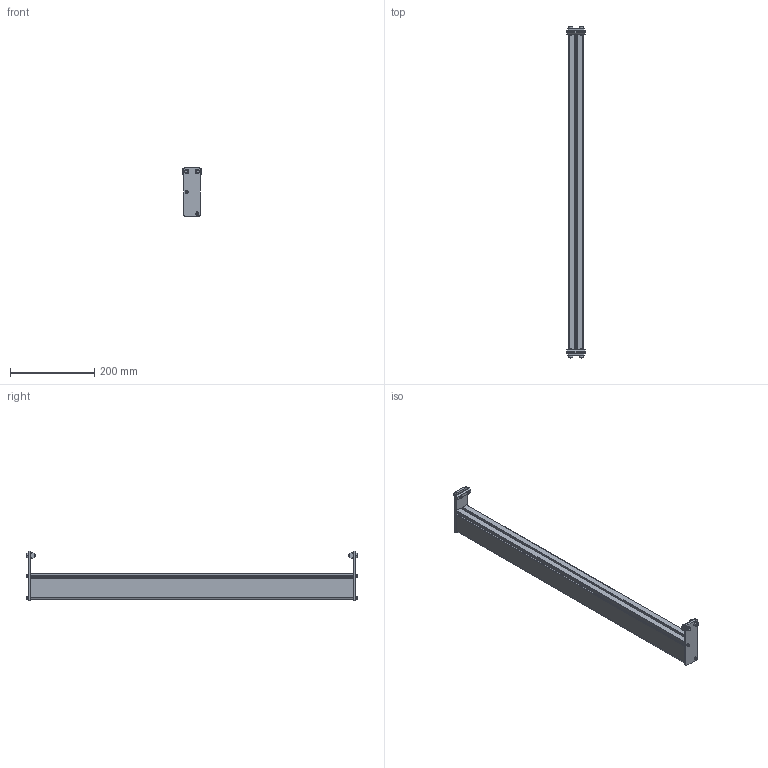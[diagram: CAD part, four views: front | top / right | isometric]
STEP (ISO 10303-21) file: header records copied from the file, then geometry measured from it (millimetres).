
FILE_DESCRIPTION((''),'2;1');
FILE_NAME('350974-30_ASM','2023-03-22T',('jenni.wallner'),(''),'PRO/ENGINEER BY PARAMETRIC TECHNOLOGY CORPORATION, 2012420','PRO/ENGINEER BY PARAMETRIC TECHNOLOGY CORPORATION, 2012420','');
FILE_SCHEMA(('CONFIG_CONTROL_DESIGN'));
Length unit declared in the file: inch
Products named in the file (6): 350979-03023; 350978; 200830M; 920616M; 920416M; 350974-30_ASM
Assembly tree (13 placements, depth 2):
  350974-30_ASM
    350979-03023
    350978  x2
    200830M  x2
    920616M  x4
    920416M  x4
Bounding box: 44.45 x 788.94 x 116.98 mm (x, y, z)
Volume: 655694.8 mm3; surface area: 418343.7 mm2
Topology: 13 solids, 17 shells, 342 faces, 868 edges, 568 vertices
Faces by surface type: plane 168, cylinder 142, cone 32
Entity records: 5990 total; most frequent: DIRECTION 1076, CARTESIAN_POINT 1015, ORIENTED_EDGE 972, EDGE_CURVE 490, AXIS2_PLACEMENT_3D 385, VERTEX_POINT 324, VECTOR 306, LINE 306
